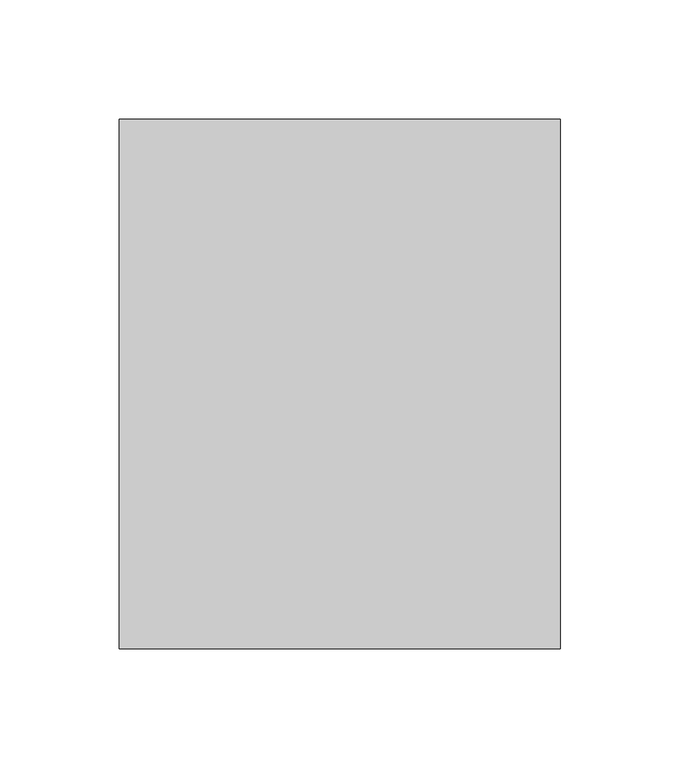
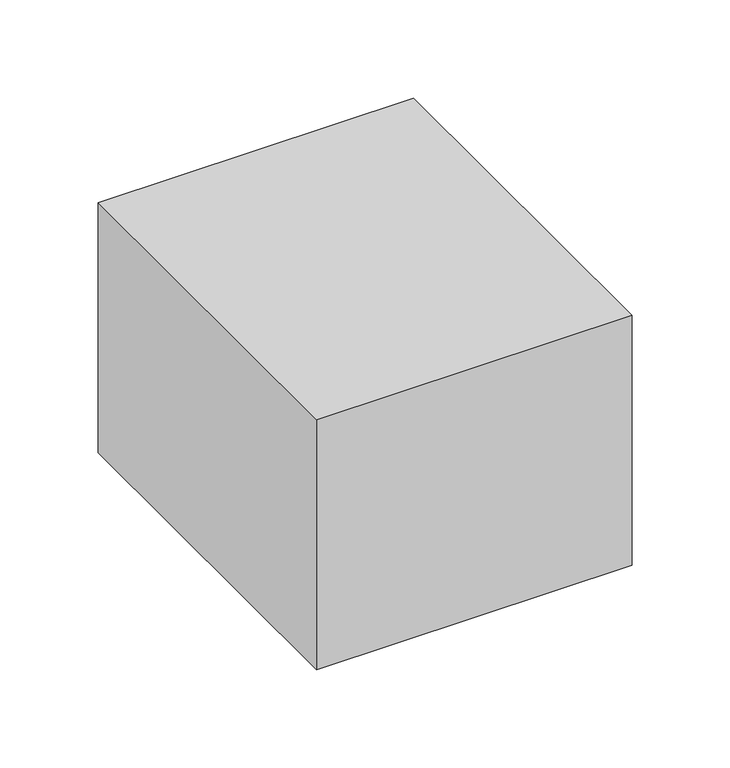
"""IFC4 building model written with IfcOpenShell, lengths in millimetres: light fixture geometry,  210 :  212000."""

from ifc_helpers import new_model, si_unit, frame, origin, place, context, project, spatial, polyline, outline, extrude, source, transform, mapped, element, save


def light_fixture_d0c40b61(model_context):
    return source(origin(), model_context, "Body", "SweptSolid", [
        extrude(outline(polyline([(10370.8746511, -7727.3008255), (10555.8746511, -7727.3008255), (10555.8746511, -7949.3008255), (10370.8746511, -7949.3008255), (10370.8746511, -7727.3008255)])), frame((0.0, 0.0, 1375.0), z_axis=(0.0, 0.0, 1.0), x_axis=(1.0, 0.0, 0.0)), (0.0, 0.0, 1.0), 155.0),
    ])


if __name__ == "__main__":
    model = new_model("IFC4")
    model_context = context("Model", 3, world=origin())
    ifc_project = project(units=[si_unit("LENGTHUNIT", "METRE", prefix="MILLI")], contexts=[model_context])
    site = spatial("IfcSite", under=ifc_project)
    building = spatial("IfcBuilding", under=site)
    placement = place(None, origin())
    light_fixture_shape = light_fixture_d0c40b61(model_context)
    element("IfcLightFixture", 1, ObjectType=" 210 :  212000", at=placement, inside=building, context=model_context, shape_type="MappedRepresentation", body=[
        mapped(light_fixture_shape, transform((0.0, 0.0, 0.0), x_axis=(1.0, 0.0, 0.0), y_axis=(0.0, 1.0, 0.0), z_axis=(0.0, 0.0, 1.0))),
    ])
    save(model, "model.ifc")
